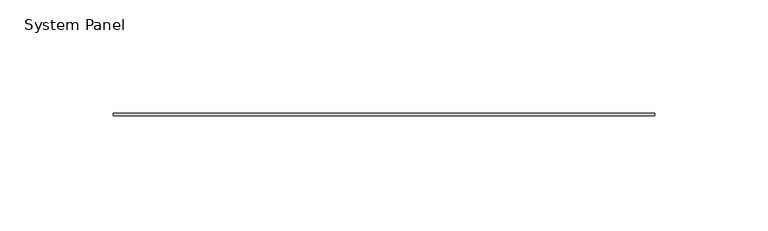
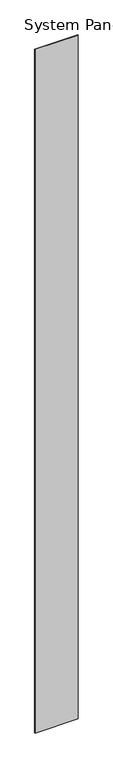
"""IFC4 building model written with IfcOpenShell, lengths in millimetres: plate geometry, System Panel : Stratco_Hiland_Tray."""

from ifc_helpers import new_model, si_unit, origin, origin_with_axes, place, context, project, spatial, polyline, outline, extrude, source, transform, mapped, element, save


def system_panel_fcbe450f(model_context):
    return source(origin(), model_context, "Body", "SweptSolid", [
        extrude(outline(polyline([(119.3699777, 2.5), (-119.3699777, 2.5), (-119.3699777, 3.5), (119.3699777, 3.5), (119.3699777, 2.5)])), origin_with_axes(), (0.0, 0.0, 1.0), 4000.0),
    ])


if __name__ == "__main__":
    model = new_model("IFC4")
    model_context = context("Model", 3, world=origin())
    ifc_project = project(units=[si_unit("LENGTHUNIT", "METRE", prefix="MILLI")], contexts=[model_context])
    site = spatial("IfcSite", under=ifc_project)
    building = spatial("IfcBuilding", under=site)
    placement = place(None, origin())
    system_panel_shape = system_panel_fcbe450f(model_context)
    element("IfcPlate", 1, ObjectType="System Panel : Stratco_Hiland_Tray", at=placement, inside=building, context=model_context, shape_type="MappedRepresentation", body=[
        mapped(system_panel_shape, transform((0.0, 0.0, 0.0), x_axis=(1.0, 0.0, 0.0), y_axis=(0.0, 1.0, 0.0), z_axis=(0.0, 0.0, 1.0))),
    ])
    save(model, "model.ifc")
